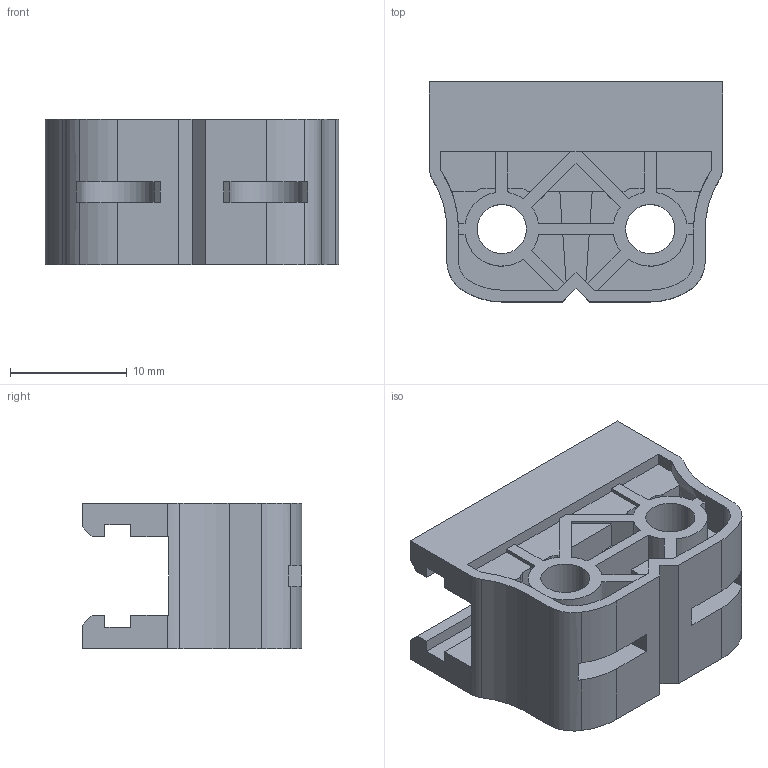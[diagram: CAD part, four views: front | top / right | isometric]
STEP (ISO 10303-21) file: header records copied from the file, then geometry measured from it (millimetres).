
FILE_DESCRIPTION (( 'STEP AP214' ), '1' );
FILE_NAME ('228-2500-1469.STEP', '2021-02-18T20:16:55', ( '' ), ( '' ), 'SwSTEP 2.0', 'SolidWorks 2019', '' );
FILE_SCHEMA (( 'AUTOMOTIVE_DESIGN' ));
Length unit declared in the file: millimetre
Products named in the file (1): 228-2500-1469
Bounding box: 25.1 x 18.8 x 12.4 mm (x, y, z)
Volume: 2684.5 mm3; surface area: 3452.3 mm2
Topology: 1 solids, 1 shells, 223 faces, 647 edges, 430 vertices
Faces by surface type: plane 151, cylinder 72
Entity records: 7403 total; most frequent: CARTESIAN_POINT 1301, ORIENTED_EDGE 1294, DIRECTION 1259, EDGE_CURVE 647, LINE 483, VECTOR 483, VERTEX_POINT 430, AXIS2_PLACEMENT_3D 388
